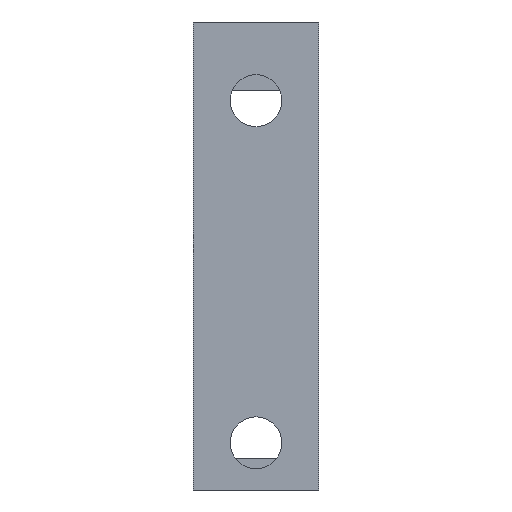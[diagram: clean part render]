
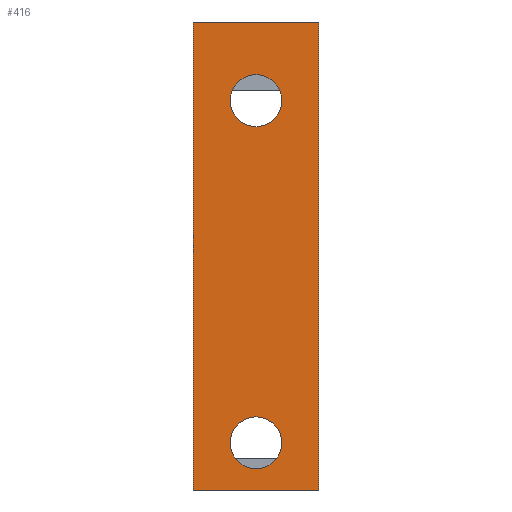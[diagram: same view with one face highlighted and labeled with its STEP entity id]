
A CAD part, left-side view. The second image highlights one B-rep face of the part: STEP entity #416.
In plain terms, the highlighted planar face has unit normal (-1, 0, 0).
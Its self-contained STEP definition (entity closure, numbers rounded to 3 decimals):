
#114 = VERTEX_POINT('',#115);
#115 = CARTESIAN_POINT('',(-121.,4.,-2.));
#121 = EDGE_CURVE('',#114,#122,#124,.T.);
#122 = VERTEX_POINT('',#123);
#123 = CARTESIAN_POINT('',(-121.,4.,27.75));
#124 = LINE('',#125,#126);
#125 = CARTESIAN_POINT('',(-121.,4.,-2.));
#126 = VECTOR('',#127,1.);
#127 = DIRECTION('',(0.,0.,1.));
#208 = VERTEX_POINT('',#209);
#209 = CARTESIAN_POINT('',(-121.,-4.,27.75));
#217 = EDGE_CURVE('',#122,#208,#218,.T.);
#218 = LINE('',#219,#220);
#219 = CARTESIAN_POINT('',(-121.,4.,27.75));
#220 = VECTOR('',#221,1.);
#221 = DIRECTION('',(0.,-1.,0.));
#231 = EDGE_CURVE('',#232,#208,#234,.T.);
#232 = VERTEX_POINT('',#233);
#233 = CARTESIAN_POINT('',(-121.,-4.,-2.));
#234 = LINE('',#235,#236);
#235 = CARTESIAN_POINT('',(-121.,-4.,-2.));
#236 = VECTOR('',#237,1.);
#237 = DIRECTION('',(0.,0.,1.));
#392 = EDGE_CURVE('',#114,#232,#393,.T.);
#393 = LINE('',#394,#395);
#394 = CARTESIAN_POINT('',(-121.,4.,-2.));
#395 = VECTOR('',#396,1.);
#396 = DIRECTION('',(0.,-1.,0.));
#416 = ADVANCED_FACE('',(#417,#423,#434),#445,.F.);
#417 = FACE_BOUND('',#418,.F.);
#418 = EDGE_LOOP('',(#419,#420,#421,#422));
#419 = ORIENTED_EDGE('',*,*,#121,.T.);
#420 = ORIENTED_EDGE('',*,*,#217,.T.);
#421 = ORIENTED_EDGE('',*,*,#231,.F.);
#422 = ORIENTED_EDGE('',*,*,#392,.F.);
#423 = FACE_BOUND('',#424,.F.);
#424 = EDGE_LOOP('',(#425));
#425 = ORIENTED_EDGE('',*,*,#426,.T.);
#426 = EDGE_CURVE('',#427,#427,#429,.T.);
#427 = VERTEX_POINT('',#428);
#428 = CARTESIAN_POINT('',(-121.,0.,24.4));
#429 = CIRCLE('',#430,1.65);
#430 = AXIS2_PLACEMENT_3D('',#431,#432,#433);
#431 = CARTESIAN_POINT('',(-121.,0.,22.75));
#432 = DIRECTION('',(-1.,0.,0.));
#433 = DIRECTION('',(0.,0.,1.));
#434 = FACE_BOUND('',#435,.F.);
#435 = EDGE_LOOP('',(#436));
#436 = ORIENTED_EDGE('',*,*,#437,.T.);
#437 = EDGE_CURVE('',#438,#438,#440,.T.);
#438 = VERTEX_POINT('',#439);
#439 = CARTESIAN_POINT('',(-121.,0.,2.65));
#440 = CIRCLE('',#441,1.65);
#441 = AXIS2_PLACEMENT_3D('',#442,#443,#444);
#442 = CARTESIAN_POINT('',(-121.,0.,1.));
#443 = DIRECTION('',(-1.,0.,0.));
#444 = DIRECTION('',(0.,0.,1.));
#445 = PLANE('',#446);
#446 = AXIS2_PLACEMENT_3D('',#447,#448,#449);
#447 = CARTESIAN_POINT('',(-121.,4.,-2.));
#448 = DIRECTION('',(1.,0.,0.));
#449 = DIRECTION('',(0.,-1.,0.));
